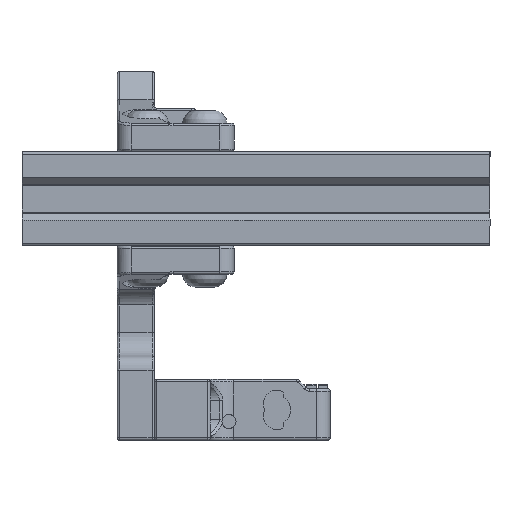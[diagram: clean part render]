
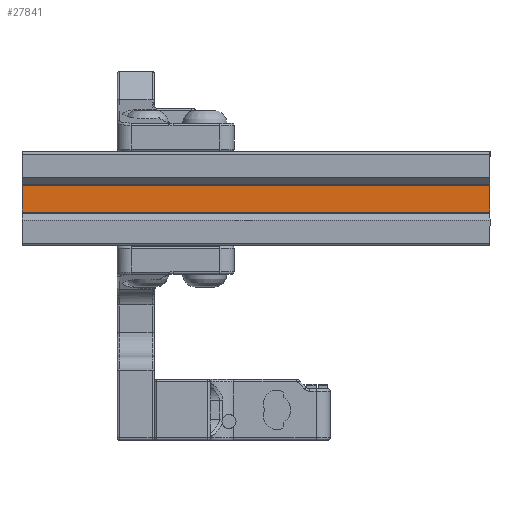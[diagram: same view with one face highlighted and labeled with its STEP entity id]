
A CAD part, front view. The second image highlights one B-rep face of the part: STEP entity #27841.
In plain terms, the highlighted planar face has unit normal (0, -1, 0).
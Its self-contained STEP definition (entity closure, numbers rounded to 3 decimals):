
#2518=PLANE('',#30857);
#4210=LINE('',#105423,#6023);
#4330=LINE('',#105674,#6143);
#4331=LINE('',#105677,#6144);
#4332=LINE('',#105678,#6145);
#6023=VECTOR('',#37706,10.);
#6143=VECTOR('',#37944,10.);
#6144=VECTOR('',#37947,10.);
#6145=VECTOR('',#37948,10.);
#8542=FACE_OUTER_BOUND('',#10278,.T.);
#10278=EDGE_LOOP('',(#26073,#26074,#26075,#26076));
#13760=VERTEX_POINT('',#105420);
#13761=VERTEX_POINT('',#105422);
#13833=VERTEX_POINT('',#105672);
#13834=VERTEX_POINT('',#105676);
#17806=EDGE_CURVE('',#13760,#13761,#4210,.T.);
#17932=EDGE_CURVE('',#13760,#13833,#4330,.T.);
#17933=EDGE_CURVE('',#13834,#13833,#4331,.F.);
#17934=EDGE_CURVE('',#13761,#13834,#4332,.T.);
#26073=ORIENTED_EDGE('',*,*,#17806,.F.);
#26074=ORIENTED_EDGE('',*,*,#17932,.T.);
#26075=ORIENTED_EDGE('',*,*,#17933,.F.);
#26076=ORIENTED_EDGE('',*,*,#17934,.F.);
#27841=ADVANCED_FACE('',(#8542),#2518,.T.);
#30857=AXIS2_PLACEMENT_3D('',#105675,#37945,#37946);
#37706=DIRECTION('',(0.,0.,1.));
#37944=DIRECTION('',(1.,0.,0.));
#37945=DIRECTION('center_axis',(0.,-1.,0.));
#37946=DIRECTION('ref_axis',(0.,0.,-1.));
#37947=DIRECTION('',(0.,0.,1.));
#37948=DIRECTION('',(1.,0.,0.));
#105420=CARTESIAN_POINT('',(-107.175,-113.923,-93.239));
#105422=CARTESIAN_POINT('',(-107.175,-113.923,-87.549));
#105423=CARTESIAN_POINT('',(-107.175,-113.923,-88.972));
#105672=CARTESIAN_POINT('',(-7.175,-113.923,-93.239));
#105674=CARTESIAN_POINT('',(-157.175,-113.923,-93.239));
#105675=CARTESIAN_POINT('Origin',(-157.175,-113.923,-87.549));
#105676=CARTESIAN_POINT('',(-7.175,-113.923,-87.549));
#105677=CARTESIAN_POINT('',(-7.175,-113.923,-88.972));
#105678=CARTESIAN_POINT('',(-157.175,-113.923,-87.549));
